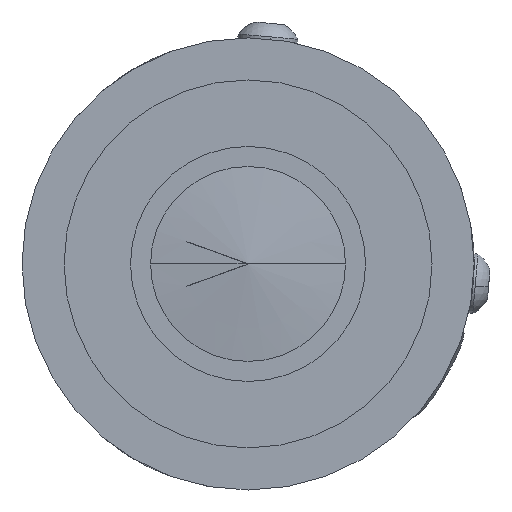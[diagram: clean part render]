
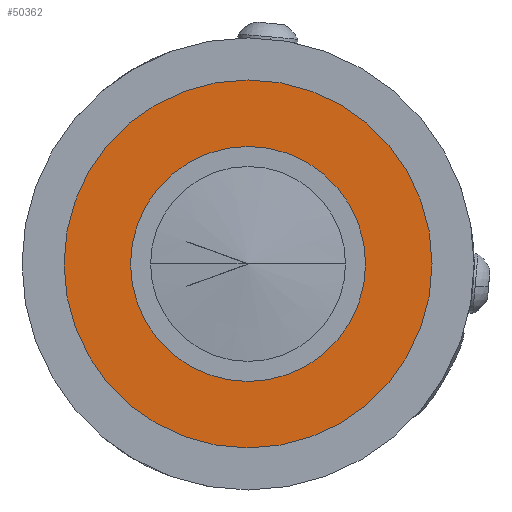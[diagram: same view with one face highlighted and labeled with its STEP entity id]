
A CAD part, left-side view. The second image highlights one B-rep face of the part: STEP entity #50362.
In plain terms, the highlighted planar face has unit normal (-1, 0, 0).
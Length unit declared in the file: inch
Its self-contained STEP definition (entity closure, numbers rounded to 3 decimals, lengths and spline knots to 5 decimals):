
#2612 = EDGE_CURVE ( 'NONE', #41135, #5484, #12991, .T. ) ;
#3895 = CARTESIAN_POINT ( 'NONE',  ( 0.36857, 0.43898, 0. ) ) ;
#4130 = FACE_BOUND ( 'NONE', #29254, .T. ) ;
#5484 = VERTEX_POINT ( 'NONE', #6173 ) ;
#5886 = AXIS2_PLACEMENT_3D ( 'NONE', #3895, #20698, #49895 ) ;
#6138 = CARTESIAN_POINT ( 'NONE',  ( 0.36857, 0.43898, 0. ) ) ;
#6173 = CARTESIAN_POINT ( 'NONE',  ( 0.36857, -0.6875, 0. ) ) ;
#7273 = DIRECTION ( 'NONE',  ( 1., 0., 0. ) ) ;
#8854 = ORIENTED_EDGE ( 'NONE', *, *, #45247, .T. ) ;
#11272 = DIRECTION ( 'NONE',  ( 0., 1., 0. ) ) ;
#12265 = CARTESIAN_POINT ( 'NONE',  ( 0.36857, 0., 0. ) ) ;
#12991 = CIRCLE ( 'NONE', #48508, 0.6875 ) ;
#13934 = FACE_OUTER_BOUND ( 'NONE', #46205, .T. ) ;
#14034 = EDGE_CURVE ( 'NONE', #27759, #30892, #46401, .T. ) ;
#15467 = CARTESIAN_POINT ( 'NONE',  ( 0.36857, 0., 0. ) ) ;
#15598 = AXIS2_PLACEMENT_3D ( 'NONE', #32237, #7273, #36444 ) ;
#16445 = DIRECTION ( 'NONE',  ( 0., 1., 0. ) ) ;
#18909 = CARTESIAN_POINT ( 'NONE',  ( 0.36857, -0.43898, 0. ) ) ;
#20698 = DIRECTION ( 'NONE',  ( -1., 0., 0. ) ) ;
#22064 = CARTESIAN_POINT ( 'NONE',  ( 0.36857, 0., 0. ) ) ;
#23968 = CARTESIAN_POINT ( 'NONE',  ( 0.36857, 0.6875, 0. ) ) ;
#24969 = EDGE_CURVE ( 'NONE', #5484, #41135, #53253, .T. ) ;
#26261 = DIRECTION ( 'NONE',  ( 0., 1., 0. ) ) ;
#26980 = AXIS2_PLACEMENT_3D ( 'NONE', #22064, #51243, #26261 ) ;
#27759 = VERTEX_POINT ( 'NONE', #6138 ) ;
#29046 = ORIENTED_EDGE ( 'NONE', *, *, #14034, .T. ) ;
#29254 = EDGE_LOOP ( 'NONE', ( #29046, #8854 ) ) ;
#30892 = VERTEX_POINT ( 'NONE', #18909 ) ;
#32237 = CARTESIAN_POINT ( 'NONE',  ( 0.36857, 0., 0. ) ) ;
#36248 = DIRECTION ( 'NONE',  ( 1., 0., 0. ) ) ;
#36373 = ORIENTED_EDGE ( 'NONE', *, *, #2612, .F. ) ;
#36444 = DIRECTION ( 'NONE',  ( 0., 1., 0. ) ) ;
#41135 = VERTEX_POINT ( 'NONE', #23968 ) ;
#41465 = DIRECTION ( 'NONE',  ( 1., 0., 0. ) ) ;
#44213 = CIRCLE ( 'NONE', #15598, 0.43898 ) ;
#45247 = EDGE_CURVE ( 'NONE', #30892, #27759, #44213, .T. ) ;
#45726 = PLANE ( 'NONE',  #5886 ) ;
#46205 = EDGE_LOOP ( 'NONE', ( #36373, #46899 ) ) ;
#46401 = CIRCLE ( 'NONE', #26980, 0.43898 ) ;
#46899 = ORIENTED_EDGE ( 'NONE', *, *, #24969, .F. ) ;
#47419 = AXIS2_PLACEMENT_3D ( 'NONE', #12265, #41465, #16445 ) ;
#48508 = AXIS2_PLACEMENT_3D ( 'NONE', #15467, #36248, #11272 ) ;
#49895 = DIRECTION ( 'NONE',  ( 0., -1., 0. ) ) ;
#50362 = ADVANCED_FACE ( 'NONE', ( #4130, #13934 ), #45726, .T. ) ;
#51243 = DIRECTION ( 'NONE',  ( 1., 0., 0. ) ) ;
#53253 = CIRCLE ( 'NONE', #47419, 0.6875 ) ;
